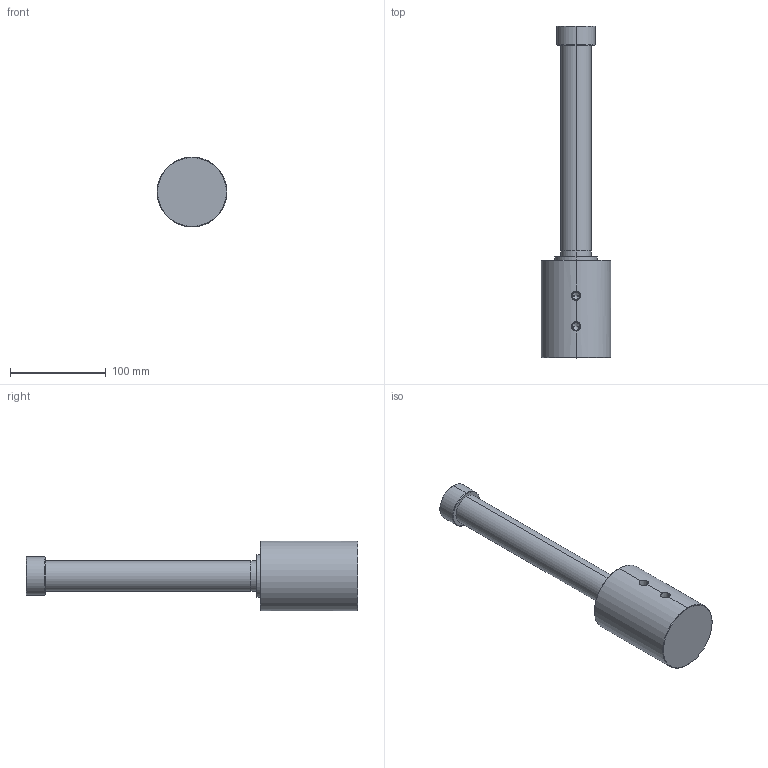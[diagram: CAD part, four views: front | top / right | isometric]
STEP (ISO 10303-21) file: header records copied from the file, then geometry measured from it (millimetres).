
FILE_DESCRIPTION((' '),'2;1');
FILE_NAME( 'TMG-4-320_step.prt.stp', '2024-08-27T14:05:44', (' '), ('--- Datakit www.datakit.com---'), ' Datakit CrossCadWare V2024.1 Dec 21 2023', 'Mastercam 2025', ' ');
FILE_SCHEMA(('AUTOMOTIVE_DESIGN { 1 0 10303 214 1 1 1 1 }'));
Length unit declared in the file: millimetre
Products named in the file (1): TMG-4-320_step
Bounding box: 73 x 347 x 73 mm (x, y, z)
Volume: 619197.2 mm3; surface area: 65175.1 mm2
Topology: 1 solids, 1 shells, 91 faces, 209 edges, 126 vertices
Faces by surface type: cylinder 39, cone 31, plane 21
Entity records: 2687 total; most frequent: CARTESIAN_POINT 618, DIRECTION 459, ORIENTED_EDGE 394, EDGE_CURVE 197, AXIS2_PLACEMENT_3D 189, VERTEX_POINT 126, EDGE_LOOP 109, CIRCLE 97
